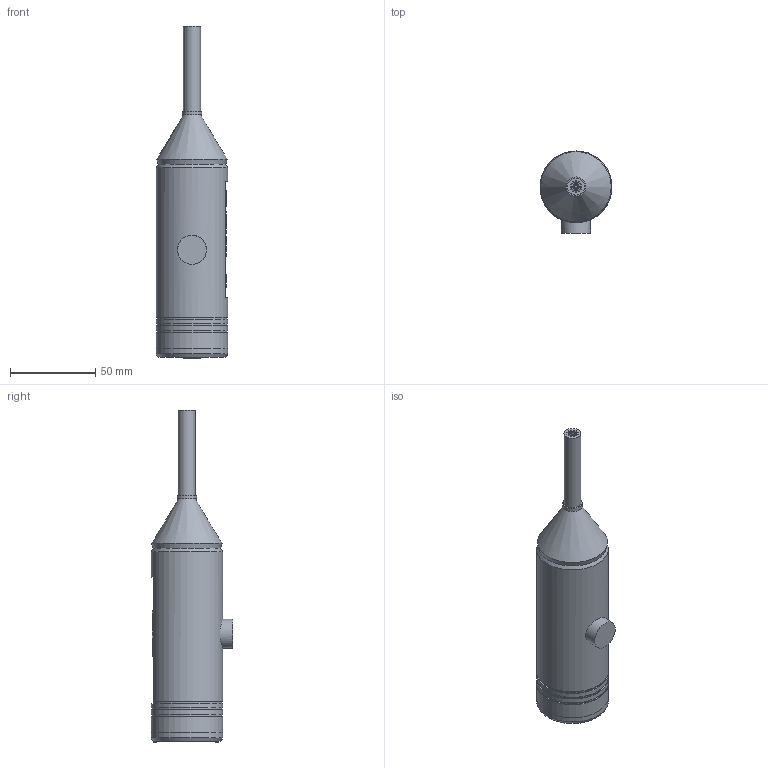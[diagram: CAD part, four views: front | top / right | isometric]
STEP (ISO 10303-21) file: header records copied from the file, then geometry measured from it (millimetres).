
FILE_DESCRIPTION(('Open CASCADE Model'),'2;1');
FILE_NAME('Open CASCADE Shape Model','2026-11-19T20:29:08',('Author'),( 'Open CASCADE'),'Open CASCADE STEP processor 8.0','build123d', 'Unknown');
FILE_SCHEMA(('AUTOMOTIVE_DESIGN { 1 0 10303 214 1 1 1 1 }'));
Length unit declared in the file: millimetre
Products named in the file (8): COMPOUND
Assembly tree (7 placements, depth 2):
  COMPOUND
    COMPOUND
    COMPOUND
    COMPOUND
    COMPOUND
    COMPOUND
    COMPOUND
    COMPOUND
Bounding box: 42 x 48 x 194.35 mm (x, y, z)
Volume: 61633.3 mm3; surface area: 55465.1 mm2
Topology: 68 solids, 68 shells, 830 faces, 2039 edges, 1358 vertices
Faces by surface type: plane 667, extrusion 131, cylinder 27, cone 5
Full cylindrical faces by diameter (mm): 1.8 x1, 1.9 x3, 2.7 x1, 6 x1, 8 x1, 8.3 x1, 10 x1, 11.4 x1, 15.6 x1, 17 x1, 19 x1, 19.4 x1, 32.7 x1, 37.1 x1, 37.6 x1, 40.7 x2, 42 x5
Entity records: 53319 total; most frequent: CARTESIAN_POINT 12446, DIRECTION 7022, VECTOR 5354, LINE 5223, ORIENTED_EDGE 4078, PCURVE 4078, DEFINITIONAL_REPRESENTATION 4078, EDGE_CURVE 2039
